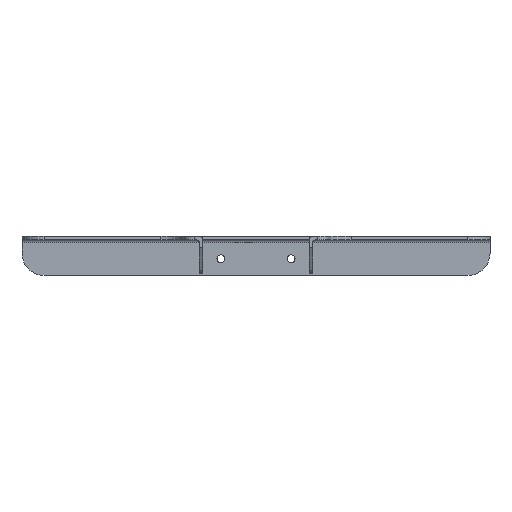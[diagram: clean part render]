
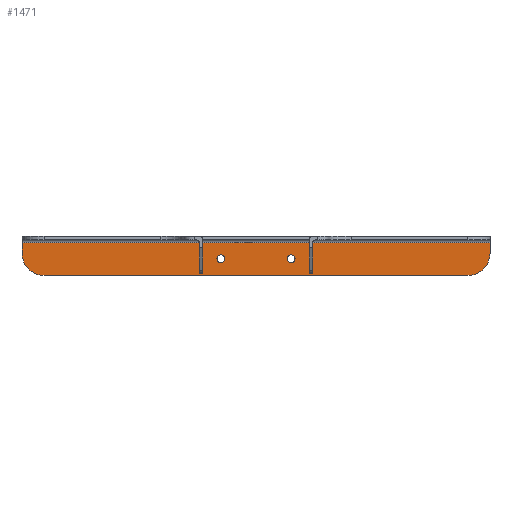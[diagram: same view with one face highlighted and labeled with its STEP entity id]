
A CAD part, front view. The second image highlights one B-rep face of the part: STEP entity #1471.
In plain terms, the highlighted planar face has unit normal (0, -1, 0).
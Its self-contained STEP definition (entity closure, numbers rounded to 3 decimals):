
#58=PLANE('',#1581);
#89=CIRCLE('',#1549,3.501);
#91=CIRCLE('',#1552,3.501);
#105=CIRCLE('',#1576,20.);
#109=CIRCLE('',#1582,3.501);
#110=CIRCLE('',#1583,3.501);
#111=CIRCLE('',#1584,20.);
#227=ORIENTED_EDGE('',*,*,#664,.F.);
#228=ORIENTED_EDGE('',*,*,#616,.F.);
#229=ORIENTED_EDGE('',*,*,#665,.F.);
#230=ORIENTED_EDGE('',*,*,#620,.F.);
#231=ORIENTED_EDGE('',*,*,#657,.F.);
#232=ORIENTED_EDGE('',*,*,#666,.T.);
#233=ORIENTED_EDGE('',*,*,#662,.F.);
#234=ORIENTED_EDGE('',*,*,#667,.T.);
#235=ORIENTED_EDGE('',*,*,#668,.F.);
#236=ORIENTED_EDGE('',*,*,#624,.F.);
#616=EDGE_CURVE('',#836,#838,#89,.T.);
#620=EDGE_CURVE('',#840,#842,#91,.T.);
#624=EDGE_CURVE('',#844,#846,#987,.T.);
#657=EDGE_CURVE('',#874,#844,#105,.T.);
#662=EDGE_CURVE('',#878,#879,#1010,.T.);
#664=EDGE_CURVE('',#838,#836,#109,.T.);
#665=EDGE_CURVE('',#842,#840,#110,.T.);
#666=EDGE_CURVE('',#874,#879,#1011,.T.);
#667=EDGE_CURVE('',#878,#880,#1012,.T.);
#668=EDGE_CURVE('',#846,#880,#111,.T.);
#836=VERTEX_POINT('',#2173);
#838=VERTEX_POINT('',#2176);
#840=VERTEX_POINT('',#2182);
#842=VERTEX_POINT('',#2185);
#844=VERTEX_POINT('',#2191);
#846=VERTEX_POINT('',#2194);
#874=VERTEX_POINT('',#2264);
#878=VERTEX_POINT('',#2273);
#879=VERTEX_POINT('',#2275);
#880=VERTEX_POINT('',#2282);
#987=LINE('',#2193,#1124);
#1010=LINE('',#2274,#1147);
#1011=LINE('',#2280,#1148);
#1012=LINE('',#2281,#1149);
#1124=VECTOR('',#1730,1000.);
#1147=VECTOR('',#1803,1000.);
#1148=VECTOR('',#1812,1000.);
#1149=VECTOR('',#1813,1000.);
#1269=EDGE_LOOP('',(#227,#228));
#1270=EDGE_LOOP('',(#229,#230));
#1271=EDGE_LOOP('',(#231,#232,#233,#234,#235,#236));
#1366=FACE_BOUND('',#1269,.T.);
#1367=FACE_BOUND('',#1270,.T.);
#1368=FACE_BOUND('',#1271,.T.);
#1471=ADVANCED_FACE('',(#1366,#1367,#1368),#58,.F.);
#1549=AXIS2_PLACEMENT_3D('',#2175,#1714,#1715);
#1552=AXIS2_PLACEMENT_3D('',#2184,#1722,#1723);
#1576=AXIS2_PLACEMENT_3D('',#2263,#1793,#1794);
#1581=AXIS2_PLACEMENT_3D('',#2277,#1806,#1807);
#1582=AXIS2_PLACEMENT_3D('',#2278,#1808,#1809);
#1583=AXIS2_PLACEMENT_3D('',#2279,#1810,#1811);
#1584=AXIS2_PLACEMENT_3D('',#2283,#1814,#1815);
#1714=DIRECTION('',(0.,-1.,0.));
#1715=DIRECTION('',(0.,0.,1.));
#1722=DIRECTION('',(0.,-1.,0.));
#1723=DIRECTION('',(0.,0.,1.));
#1730=DIRECTION('',(-1.,0.,0.));
#1793=DIRECTION('',(0.,1.,0.));
#1794=DIRECTION('',(0.,0.,-1.));
#1803=DIRECTION('',(1.,0.,0.));
#1806=DIRECTION('',(0.,1.,0.));
#1807=DIRECTION('',(0.,0.,1.));
#1808=DIRECTION('',(0.,-1.,0.));
#1809=DIRECTION('',(0.,0.,1.));
#1810=DIRECTION('',(0.,-1.,0.));
#1811=DIRECTION('',(0.,0.,1.));
#1812=DIRECTION('',(0.,0.,1.));
#1813=DIRECTION('',(0.,0.,-1.));
#1814=DIRECTION('',(0.,1.,0.));
#1815=DIRECTION('',(0.,0.,1.));
#2173=CARTESIAN_POINT('',(-31.5,157.,-23.501));
#2175=CARTESIAN_POINT('',(-31.5,157.,-20.));
#2176=CARTESIAN_POINT('',(-31.5,157.,-16.499));
#2182=CARTESIAN_POINT('',(31.5,157.,-23.501));
#2184=CARTESIAN_POINT('',(31.5,157.,-20.));
#2185=CARTESIAN_POINT('',(31.5,157.,-16.499));
#2191=CARTESIAN_POINT('',(190.,157.,-35.));
#2193=CARTESIAN_POINT('',(-210.,157.,-35.));
#2194=CARTESIAN_POINT('',(-190.,157.,-35.));
#2263=CARTESIAN_POINT('',(190.,157.,-15.));
#2264=CARTESIAN_POINT('',(210.,157.,-15.));
#2273=CARTESIAN_POINT('',(-210.,157.,-5.5));
#2274=CARTESIAN_POINT('',(-210.,157.,-5.5));
#2275=CARTESIAN_POINT('',(210.,157.,-5.5));
#2277=CARTESIAN_POINT('',(-210.,157.,-35.));
#2278=CARTESIAN_POINT('',(-31.5,157.,-20.));
#2279=CARTESIAN_POINT('',(31.5,157.,-20.));
#2280=CARTESIAN_POINT('',(210.,157.,0.));
#2281=CARTESIAN_POINT('',(-210.,157.,0.));
#2282=CARTESIAN_POINT('',(-210.,157.,-15.));
#2283=CARTESIAN_POINT('',(-190.,157.,-15.));
